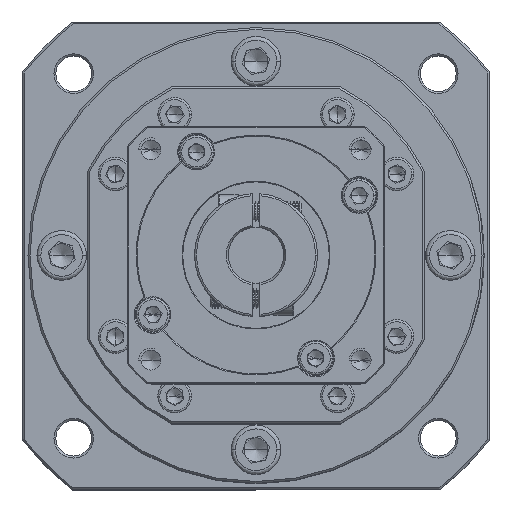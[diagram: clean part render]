
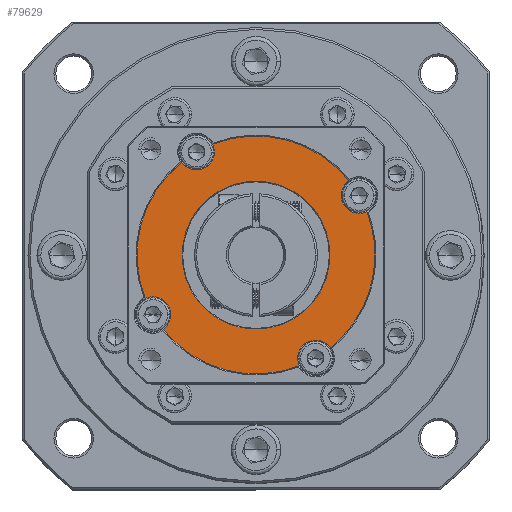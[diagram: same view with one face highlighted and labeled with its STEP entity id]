
A CAD part, top view. The second image highlights one B-rep face of the part: STEP entity #79629.
In plain terms, the highlighted planar face has unit normal (0, 0, 1).
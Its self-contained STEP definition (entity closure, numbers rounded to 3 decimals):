
#504 = ORIENTED_EDGE ( 'NONE', *, *, #32607, .T. ) ;
#1878 = AXIS2_PLACEMENT_3D ( 'NONE', #17183, #78041, #25966 ) ;
#2567 = CIRCLE ( 'NONE', #90789, 30. ) ;
#2834 = DIRECTION ( 'NONE',  ( 0., 0., 1. ) ) ;
#3914 = DIRECTION ( 'NONE',  ( 1., 0., 0. ) ) ;
#5444 = VERTEX_POINT ( 'NONE', #67221 ) ;
#6127 = AXIS2_PLACEMENT_3D ( 'NONE', #78279, #26251, #87036 ) ;
#6595 = CIRCLE ( 'NONE', #6127, 4.5 ) ;
#6671 = CIRCLE ( 'NONE', #29144, 30. ) ;
#8179 = EDGE_LOOP ( 'NONE', ( #78990, #40958, #59685, #101983, #504, #82150, #99870, #90174, #67202, #11036, #67210, #8581, #76420 ) ) ;
#8581 = ORIENTED_EDGE ( 'NONE', *, *, #73410, .T. ) ;
#8714 = AXIS2_PLACEMENT_3D ( 'NONE', #81209, #29177, #89928 ) ;
#9262 = EDGE_CURVE ( 'NONE', #97962, #5444, #98567, .T. ) ;
#9443 = VERTEX_POINT ( 'NONE', #100942 ) ;
#11036 = ORIENTED_EDGE ( 'NONE', *, *, #34837, .F. ) ;
#11775 = CIRCLE ( 'NONE', #66561, 30. ) ;
#12063 = VERTEX_POINT ( 'NONE', #43927 ) ;
#13021 = FACE_OUTER_BOUND ( 'NONE', #8179, .T. ) ;
#13922 = CIRCLE ( 'NONE', #18032, 4.5 ) ;
#14261 = DIRECTION ( 'NONE',  ( 0., 0., 1. ) ) ;
#14433 = CARTESIAN_POINT ( 'NONE',  ( -68.336, 81.859, 26.986 ) ) ;
#17183 = CARTESIAN_POINT ( 'NONE',  ( -57.391, 53.927, 26.986 ) ) ;
#18032 = AXIS2_PLACEMENT_3D ( 'NONE', #47579, #108392, #56298 ) ;
#18494 = EDGE_CURVE ( 'NONE', #12063, #5444, #53751, .T. ) ;
#24376 = DIRECTION ( 'NONE',  ( 0., 0., 1. ) ) ;
#24761 = DIRECTION ( 'NONE',  ( 0., 0., 1. ) ) ;
#25966 = DIRECTION ( 'NONE',  ( 1., 0., 0. ) ) ;
#26251 = DIRECTION ( 'NONE',  ( 0., 0., 1. ) ) ;
#26545 = AXIS2_PLACEMENT_3D ( 'NONE', #38745, #99527, #47470 ) ;
#27321 = CIRCLE ( 'NONE', #47225, 4.5 ) ;
#27738 = EDGE_CURVE ( 'NONE', #29726, #97962, #49886, .T. ) ;
#27957 = CARTESIAN_POINT ( 'NONE',  ( -46.446, 25.994, 26.986 ) ) ;
#28599 = VERTEX_POINT ( 'NONE', #34643 ) ;
#28722 = CARTESIAN_POINT ( 'NONE',  ( -38.747, 53.927, 26.986 ) ) ;
#29144 = AXIS2_PLACEMENT_3D ( 'NONE', #76864, #24761, #85584 ) ;
#29177 = DIRECTION ( 'NONE',  ( 0., 0., 1. ) ) ;
#29436 = EDGE_CURVE ( 'NONE', #103868, #38573, #74190, .T. ) ;
#29726 = VERTEX_POINT ( 'NONE', #102042 ) ;
#30255 = CARTESIAN_POINT ( 'NONE',  ( -83.372, 38.927, 26.986 ) ) ;
#31592 = CARTESIAN_POINT ( 'NONE',  ( -57.391, 53.927, 26.986 ) ) ;
#32607 = EDGE_CURVE ( 'NONE', #34835, #12063, #6671, .T. ) ;
#33521 = FACE_BOUND ( 'NONE', #45028, .T. ) ;
#34643 = CARTESIAN_POINT ( 'NONE',  ( -76.109, 77.371, 26.986 ) ) ;
#34835 = VERTEX_POINT ( 'NONE', #112915 ) ;
#34837 = EDGE_CURVE ( 'NONE', #80686, #90746, #6595, .T. ) ;
#37366 = CARTESIAN_POINT ( 'NONE',  ( -57.391, 53.927, 26.986 ) ) ;
#38288 = DIRECTION ( 'NONE',  ( 0., 0., 1. ) ) ;
#38573 = VERTEX_POINT ( 'NONE', #27957 ) ;
#38745 = CARTESIAN_POINT ( 'NONE',  ( -57.391, 53.927, 26.986 ) ) ;
#39002 = DIRECTION ( 'NONE',  ( 1., 0., 0. ) ) ;
#40227 = ORIENTED_EDGE ( 'NONE', *, *, #101475, .T. ) ;
#40353 = DIRECTION ( 'NONE',  ( 1., 0., 0. ) ) ;
#40860 = VERTEX_POINT ( 'NONE', #28722 ) ;
#40958 = ORIENTED_EDGE ( 'NONE', *, *, #77898, .T. ) ;
#41076 = VERTEX_POINT ( 'NONE', #50704 ) ;
#42142 = DIRECTION ( 'NONE',  ( 0., 0., 1. ) ) ;
#43176 = AXIS2_PLACEMENT_3D ( 'NONE', #90305, #38288, #99058 ) ;
#43927 = CARTESIAN_POINT ( 'NONE',  ( -27.391, 53.927, 26.986 ) ) ;
#45028 = EDGE_LOOP ( 'NONE', ( #95730, #40227 ) ) ;
#45584 = EDGE_CURVE ( 'NONE', #29726, #90746, #2567, .T. ) ;
#46089 = DIRECTION ( 'NONE',  ( 1., 0., 0. ) ) ;
#47225 = AXIS2_PLACEMENT_3D ( 'NONE', #94117, #42142, #102918 ) ;
#47470 = DIRECTION ( 'NONE',  ( 1., 0., 0. ) ) ;
#47579 = CARTESIAN_POINT ( 'NONE',  ( -72.391, 79.907, 26.986 ) ) ;
#48379 = AXIS2_PLACEMENT_3D ( 'NONE', #55029, #2834, #63737 ) ;
#49524 = EDGE_CURVE ( 'NONE', #41076, #71300, #86003, .T. ) ;
#49886 = CIRCLE ( 'NONE', #43176, 4.5 ) ;
#50704 = CARTESIAN_POINT ( 'NONE',  ( -80.836, 35.209, 26.986 ) ) ;
#51155 = CARTESIAN_POINT ( 'NONE',  ( -57.391, 53.927, 26.986 ) ) ;
#53001 = CIRCLE ( 'NONE', #83441, 4.5 ) ;
#53751 = CIRCLE ( 'NONE', #1878, 30. ) ;
#55029 = CARTESIAN_POINT ( 'NONE',  ( -83.372, 38.927, 26.986 ) ) ;
#56085 = DIRECTION ( 'NONE',  ( 0., 0., 1. ) ) ;
#56298 = DIRECTION ( 'NONE',  ( 1., 0., 0. ) ) ;
#57319 = EDGE_CURVE ( 'NONE', #34835, #103868, #27321, .T. ) ;
#57504 = CIRCLE ( 'NONE', #26545, 18.644 ) ;
#59685 = ORIENTED_EDGE ( 'NONE', *, *, #29436, .F. ) ;
#59883 = DIRECTION ( 'NONE',  ( 1., 0., 0. ) ) ;
#60988 = AXIS2_PLACEMENT_3D ( 'NONE', #37366, #98134, #46089 ) ;
#62922 = AXIS2_PLACEMENT_3D ( 'NONE', #108196, #56085, #3914 ) ;
#63685 = CIRCLE ( 'NONE', #60988, 18.644 ) ;
#63737 = DIRECTION ( 'NONE',  ( 1., 0., 0. ) ) ;
#66401 = CARTESIAN_POINT ( 'NONE',  ( -57.391, 53.927, 26.986 ) ) ;
#66561 = AXIS2_PLACEMENT_3D ( 'NONE', #76470, #24376, #85197 ) ;
#67202 = ORIENTED_EDGE ( 'NONE', *, *, #45584, .T. ) ;
#67210 = ORIENTED_EDGE ( 'NONE', *, *, #80644, .F. ) ;
#67221 = CARTESIAN_POINT ( 'NONE',  ( -29.459, 64.872, 26.986 ) ) ;
#68263 = CIRCLE ( 'NONE', #75843, 30. ) ;
#71300 = VERTEX_POINT ( 'NONE', #76558 ) ;
#73410 = EDGE_CURVE ( 'NONE', #28599, #93113, #11775, .T. ) ;
#74190 = CIRCLE ( 'NONE', #62922, 4.5 ) ;
#75128 = DIRECTION ( 'NONE',  ( 1., 0., 0. ) ) ;
#75843 = AXIS2_PLACEMENT_3D ( 'NONE', #51155, #111979, #59883 ) ;
#76420 = ORIENTED_EDGE ( 'NONE', *, *, #101012, .F. ) ;
#76470 = CARTESIAN_POINT ( 'NONE',  ( -57.391, 53.927, 26.986 ) ) ;
#76558 = CARTESIAN_POINT ( 'NONE',  ( -78.872, 38.927, 26.986 ) ) ;
#76864 = CARTESIAN_POINT ( 'NONE',  ( -57.391, 53.927, 26.986 ) ) ;
#77898 = EDGE_CURVE ( 'NONE', #41076, #38573, #68263, .T. ) ;
#78041 = DIRECTION ( 'NONE',  ( 0., 0., 1. ) ) ;
#78279 = CARTESIAN_POINT ( 'NONE',  ( -72.391, 79.907, 26.986 ) ) ;
#78663 = CARTESIAN_POINT ( 'NONE',  ( -35.91, 68.927, 26.986 ) ) ;
#78990 = ORIENTED_EDGE ( 'NONE', *, *, #49524, .F. ) ;
#79629 = ADVANCED_FACE ( 'NONE', ( #33521, #13021 ), #83475, .T. ) ;
#80644 = EDGE_CURVE ( 'NONE', #28599, #80686, #13922, .T. ) ;
#80686 = VERTEX_POINT ( 'NONE', #82139 ) ;
#81209 = CARTESIAN_POINT ( 'NONE',  ( -31.41, 68.927, 26.986 ) ) ;
#82139 = CARTESIAN_POINT ( 'NONE',  ( -67.891, 79.907, 26.986 ) ) ;
#82150 = ORIENTED_EDGE ( 'NONE', *, *, #18494, .T. ) ;
#83441 = AXIS2_PLACEMENT_3D ( 'NONE', #30255, #90987, #39002 ) ;
#83475 = PLANE ( 'NONE',  #89892 ) ;
#85197 = DIRECTION ( 'NONE',  ( 1., 0., 0. ) ) ;
#85584 = DIRECTION ( 'NONE',  ( 1., 0., 0. ) ) ;
#86003 = CIRCLE ( 'NONE', #48379, 4.5 ) ;
#87036 = DIRECTION ( 'NONE',  ( 1., 0., 0. ) ) ;
#89892 = AXIS2_PLACEMENT_3D ( 'NONE', #66401, #14261, #75128 ) ;
#89928 = DIRECTION ( 'NONE',  ( 1., 0., 0. ) ) ;
#90174 = ORIENTED_EDGE ( 'NONE', *, *, #27738, .F. ) ;
#90305 = CARTESIAN_POINT ( 'NONE',  ( -31.41, 68.927, 26.986 ) ) ;
#90746 = VERTEX_POINT ( 'NONE', #14433 ) ;
#90789 = AXIS2_PLACEMENT_3D ( 'NONE', #31592, #92320, #40353 ) ;
#90987 = DIRECTION ( 'NONE',  ( 0., 0., 1. ) ) ;
#92320 = DIRECTION ( 'NONE',  ( 0., 0., 1. ) ) ;
#93113 = VERTEX_POINT ( 'NONE', #105501 ) ;
#94117 = CARTESIAN_POINT ( 'NONE',  ( -42.391, 27.946, 26.986 ) ) ;
#95730 = ORIENTED_EDGE ( 'NONE', *, *, #105403, .T. ) ;
#97962 = VERTEX_POINT ( 'NONE', #78663 ) ;
#98134 = DIRECTION ( 'NONE',  ( 0., 0., -1. ) ) ;
#98567 = CIRCLE ( 'NONE', #8714, 4.5 ) ;
#99058 = DIRECTION ( 'NONE',  ( 1., 0., 0. ) ) ;
#99527 = DIRECTION ( 'NONE',  ( 0., 0., -1. ) ) ;
#99870 = ORIENTED_EDGE ( 'NONE', *, *, #9262, .F. ) ;
#100942 = CARTESIAN_POINT ( 'NONE',  ( -76.036, 53.927, 26.986 ) ) ;
#101012 = EDGE_CURVE ( 'NONE', #71300, #93113, #53001, .T. ) ;
#101475 = EDGE_CURVE ( 'NONE', #9443, #40860, #63685, .T. ) ;
#101983 = ORIENTED_EDGE ( 'NONE', *, *, #57319, .F. ) ;
#102042 = CARTESIAN_POINT ( 'NONE',  ( -33.946, 72.644, 26.986 ) ) ;
#102918 = DIRECTION ( 'NONE',  ( 1., 0., 0. ) ) ;
#103868 = VERTEX_POINT ( 'NONE', #107035 ) ;
#105403 = EDGE_CURVE ( 'NONE', #40860, #9443, #57504, .T. ) ;
#105501 = CARTESIAN_POINT ( 'NONE',  ( -85.323, 42.981, 26.986 ) ) ;
#107035 = CARTESIAN_POINT ( 'NONE',  ( -46.891, 27.946, 26.986 ) ) ;
#108196 = CARTESIAN_POINT ( 'NONE',  ( -42.391, 27.946, 26.986 ) ) ;
#108392 = DIRECTION ( 'NONE',  ( 0., 0., 1. ) ) ;
#111979 = DIRECTION ( 'NONE',  ( 0., 0., 1. ) ) ;
#112915 = CARTESIAN_POINT ( 'NONE',  ( -38.674, 30.482, 26.986 ) ) ;
